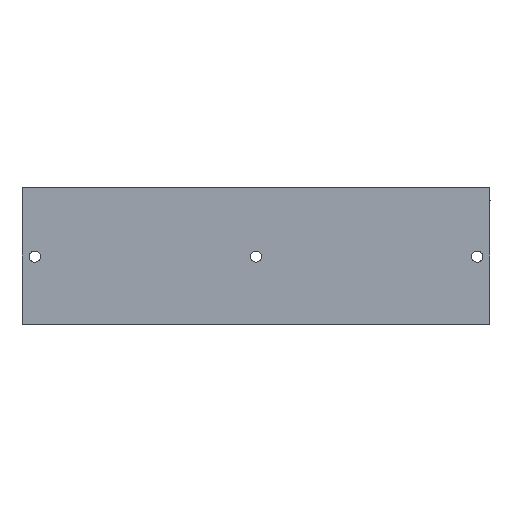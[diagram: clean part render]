
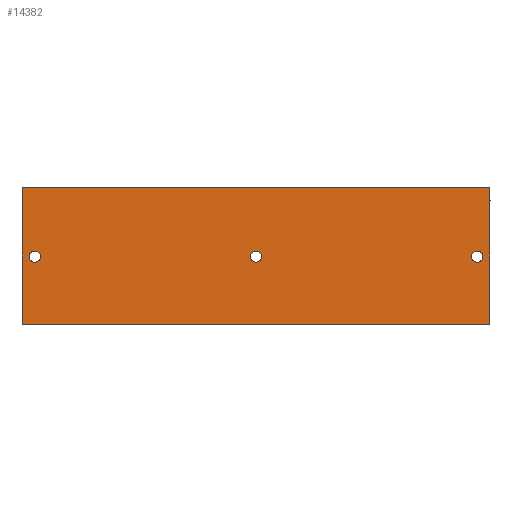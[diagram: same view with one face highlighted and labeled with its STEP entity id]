
A CAD part, front view. The second image highlights one B-rep face of the part: STEP entity #14382.
In plain terms, the highlighted planar face has unit normal (0, -1, 0).
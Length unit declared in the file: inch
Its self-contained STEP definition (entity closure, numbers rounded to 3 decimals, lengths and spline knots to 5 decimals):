
#110 = ORIENTED_EDGE ( 'NONE', *, *, #2146, .T. ) ;
#111 = CARTESIAN_POINT ( 'NONE',  ( 6.875, 0., -2.02 ) ) ;
#143 = VERTEX_POINT ( 'NONE', #20585 ) ;
#224 = EDGE_LOOP ( 'NONE', ( #23192, #10705 ) ) ;
#301 = EDGE_CURVE ( 'NONE', #22580, #17630, #18829, .T. ) ;
#798 = CIRCLE ( 'NONE', #6452, 0.164 ) ;
#807 = AXIS2_PLACEMENT_3D ( 'NONE', #20253, #8322, #22288 ) ;
#1431 = VERTEX_POINT ( 'NONE', #25812 ) ;
#1785 = CARTESIAN_POINT ( 'NONE',  ( 0.375, 0., -2.02 ) ) ;
#2081 = VECTOR ( 'NONE', #21565, 39.37008 ) ;
#2146 = EDGE_CURVE ( 'NONE', #20166, #1431, #7138, .T. ) ;
#2263 = DIRECTION ( 'NONE',  ( 0., 0., 1. ) ) ;
#2666 = DIRECTION ( 'NONE',  ( 0., 1., 0. ) ) ;
#2671 = ORIENTED_EDGE ( 'NONE', *, *, #25157, .T. ) ;
#3546 = CARTESIAN_POINT ( 'NONE',  ( 0., 0., 0. ) ) ;
#3895 = DIRECTION ( 'NONE',  ( 0., 0., 1. ) ) ;
#4717 = VERTEX_POINT ( 'NONE', #11470 ) ;
#5701 = VECTOR ( 'NONE', #18532, 39.37008 ) ;
#5753 = CARTESIAN_POINT ( 'NONE',  ( 6.875, 0., -2.02 ) ) ;
#6275 = ORIENTED_EDGE ( 'NONE', *, *, #12977, .F. ) ;
#6282 = EDGE_CURVE ( 'NONE', #9637, #14364, #25702, .T. ) ;
#6452 = AXIS2_PLACEMENT_3D ( 'NONE', #14698, #2666, #16730 ) ;
#6853 = AXIS2_PLACEMENT_3D ( 'NONE', #111, #14309, #2263 ) ;
#7138 = LINE ( 'NONE', #24084, #13091 ) ;
#7316 = CIRCLE ( 'NONE', #13997, 0.164 ) ;
#7441 = CARTESIAN_POINT ( 'NONE',  ( 0., 0., -4. ) ) ;
#7493 = LINE ( 'NONE', #3546, #2081 ) ;
#7764 = DIRECTION ( 'NONE',  ( 0., 0., 1. ) ) ;
#7959 = EDGE_LOOP ( 'NONE', ( #2671, #18893 ) ) ;
#8322 = DIRECTION ( 'NONE',  ( 0., 1., 0. ) ) ;
#8512 = FACE_BOUND ( 'NONE', #7959, .T. ) ;
#9464 = DIRECTION ( 'NONE',  ( 0., 0., 1. ) ) ;
#9471 = DIRECTION ( 'NONE',  ( 0., 1., 0. ) ) ;
#9472 = CARTESIAN_POINT ( 'NONE',  ( 13.75, 0., 0. ) ) ;
#9530 = CARTESIAN_POINT ( 'NONE',  ( 13.375, 0., -2.02 ) ) ;
#9637 = VERTEX_POINT ( 'NONE', #14410 ) ;
#9869 = EDGE_LOOP ( 'NONE', ( #14726, #13497, #6275, #110 ) ) ;
#10173 = CARTESIAN_POINT ( 'NONE',  ( 0.375, 0., -1.856 ) ) ;
#10372 = CARTESIAN_POINT ( 'NONE',  ( 13.75, 0., 0. ) ) ;
#10705 = ORIENTED_EDGE ( 'NONE', *, *, #24760, .T. ) ;
#11466 = DIRECTION ( 'NONE',  ( 0., 1., 0. ) ) ;
#11470 = CARTESIAN_POINT ( 'NONE',  ( 6.875, 0., -2.184 ) ) ;
#11717 = VECTOR ( 'NONE', #14251, 39.37008 ) ;
#11952 = VERTEX_POINT ( 'NONE', #10173 ) ;
#12219 = VERTEX_POINT ( 'NONE', #22956 ) ;
#12977 = EDGE_CURVE ( 'NONE', #20166, #22580, #22308, .T. ) ;
#13091 = VECTOR ( 'NONE', #23926, 39.37008 ) ;
#13188 = FACE_OUTER_BOUND ( 'NONE', #9869, .T. ) ;
#13497 = ORIENTED_EDGE ( 'NONE', *, *, #301, .F. ) ;
#13997 = AXIS2_PLACEMENT_3D ( 'NONE', #1785, #15858, #3895 ) ;
#14123 = AXIS2_PLACEMENT_3D ( 'NONE', #9472, #11466, #25381 ) ;
#14251 = DIRECTION ( 'NONE',  ( 0., 0., -1. ) ) ;
#14309 = DIRECTION ( 'NONE',  ( 0., 1., 0. ) ) ;
#14364 = VERTEX_POINT ( 'NONE', #15357 ) ;
#14382 = ADVANCED_FACE ( 'NONE', ( #23190, #8512, #17877, #13188 ), #23406, .F. ) ;
#14410 = CARTESIAN_POINT ( 'NONE',  ( 13.375, 0., -1.856 ) ) ;
#14698 = CARTESIAN_POINT ( 'NONE',  ( 13.375, 0., -2.02 ) ) ;
#14726 = ORIENTED_EDGE ( 'NONE', *, *, #19311, .T. ) ;
#15357 = CARTESIAN_POINT ( 'NONE',  ( 13.375, 0., -2.184 ) ) ;
#15858 = DIRECTION ( 'NONE',  ( 0., 1., 0. ) ) ;
#16502 = ORIENTED_EDGE ( 'NONE', *, *, #25474, .T. ) ;
#16730 = DIRECTION ( 'NONE',  ( 0., 0., 1. ) ) ;
#16794 = ORIENTED_EDGE ( 'NONE', *, *, #20685, .T. ) ;
#17630 = VERTEX_POINT ( 'NONE', #7441 ) ;
#17846 = CIRCLE ( 'NONE', #18957, 0.164 ) ;
#17877 = FACE_BOUND ( 'NONE', #224, .T. ) ;
#18532 = DIRECTION ( 'NONE',  ( -1., 0., 0. ) ) ;
#18557 = CARTESIAN_POINT ( 'NONE',  ( 13.75, 0., -4. ) ) ;
#18619 = CARTESIAN_POINT ( 'NONE',  ( 13.75, 0., 0. ) ) ;
#18829 = LINE ( 'NONE', #18557, #5701 ) ;
#18893 = ORIENTED_EDGE ( 'NONE', *, *, #22872, .T. ) ;
#18957 = AXIS2_PLACEMENT_3D ( 'NONE', #5753, #19736, #7764 ) ;
#19214 = EDGE_LOOP ( 'NONE', ( #16794, #16502 ) ) ;
#19311 = EDGE_CURVE ( 'NONE', #1431, #17630, #7493, .T. ) ;
#19420 = CIRCLE ( 'NONE', #807, 0.164 ) ;
#19633 = CIRCLE ( 'NONE', #6853, 0.164 ) ;
#19736 = DIRECTION ( 'NONE',  ( 0., 1., 0. ) ) ;
#20166 = VERTEX_POINT ( 'NONE', #18619 ) ;
#20253 = CARTESIAN_POINT ( 'NONE',  ( 0.375, 0., -2.02 ) ) ;
#20585 = CARTESIAN_POINT ( 'NONE',  ( 0.375, 0., -2.184 ) ) ;
#20685 = EDGE_CURVE ( 'NONE', #12219, #4717, #19633, .T. ) ;
#21565 = DIRECTION ( 'NONE',  ( 0., 0., -1. ) ) ;
#22288 = DIRECTION ( 'NONE',  ( 0., 0., 1. ) ) ;
#22308 = LINE ( 'NONE', #10372, #11717 ) ;
#22580 = VERTEX_POINT ( 'NONE', #22694 ) ;
#22694 = CARTESIAN_POINT ( 'NONE',  ( 13.75, 0., -4. ) ) ;
#22872 = EDGE_CURVE ( 'NONE', #143, #11952, #7316, .T. ) ;
#22956 = CARTESIAN_POINT ( 'NONE',  ( 6.875, 0., -1.856 ) ) ;
#23190 = FACE_BOUND ( 'NONE', #19214, .T. ) ;
#23192 = ORIENTED_EDGE ( 'NONE', *, *, #6282, .T. ) ;
#23406 = PLANE ( 'NONE',  #14123 ) ;
#23926 = DIRECTION ( 'NONE',  ( -1., 0., 0. ) ) ;
#24084 = CARTESIAN_POINT ( 'NONE',  ( 13.75, 0., 0. ) ) ;
#24760 = EDGE_CURVE ( 'NONE', #14364, #9637, #798, .T. ) ;
#25157 = EDGE_CURVE ( 'NONE', #11952, #143, #19420, .T. ) ;
#25381 = DIRECTION ( 'NONE',  ( 0., 0., 1. ) ) ;
#25474 = EDGE_CURVE ( 'NONE', #4717, #12219, #17846, .T. ) ;
#25517 = AXIS2_PLACEMENT_3D ( 'NONE', #9530, #9471, #9464 ) ;
#25702 = CIRCLE ( 'NONE', #25517, 0.164 ) ;
#25812 = CARTESIAN_POINT ( 'NONE',  ( 0., 0., 0. ) ) ;
